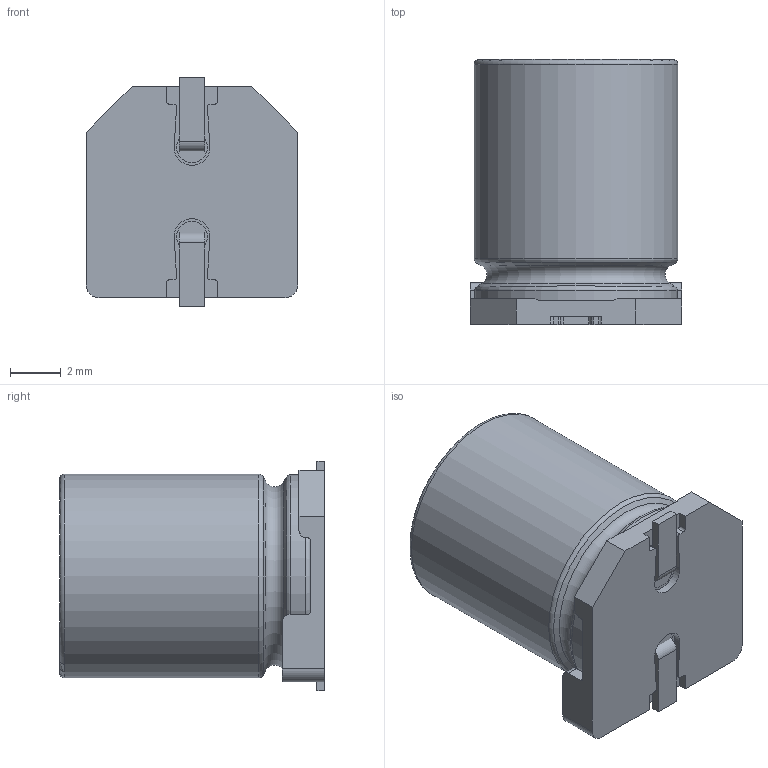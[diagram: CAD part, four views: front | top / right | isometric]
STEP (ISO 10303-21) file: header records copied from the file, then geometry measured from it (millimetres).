
FILE_DESCRIPTION (( 'STEP AP214' ), '1' );
FILE_NAME ('E10.STEP', '2019-07-09T23:53:52', ( '全社標準PC（ver1803）' ), ( 'パナソニック株式会社' ), 'SwSTEP 2.0', 'SolidWorks 2019', '' );
FILE_SCHEMA (( 'AUTOMOTIVE_DESIGN' ));
Length unit declared in the file: millimetre
Products named in the file (1): E10
Bounding box: 8.3 x 10.4 x 9 mm (x, y, z)
Surface area: 497.8 mm2 (no closed solid volume)
Topology: 0 solids, 6 shells, 88 faces, 256 edges, 174 vertices
Faces by surface type: plane 48, cylinder 33, torus 5, cone 2
Full cylindrical faces by diameter (mm): 7.95 x1, 8 x1
Entity records: 3940 total; most frequent: CARTESIAN_POINT 646, DIRECTION 481, ORIENTED_EDGE 451, EDGE_CURVE 246, VERTEX_POINT 173, AXIS2_PLACEMENT_3D 162, VECTOR 157, LINE 157
